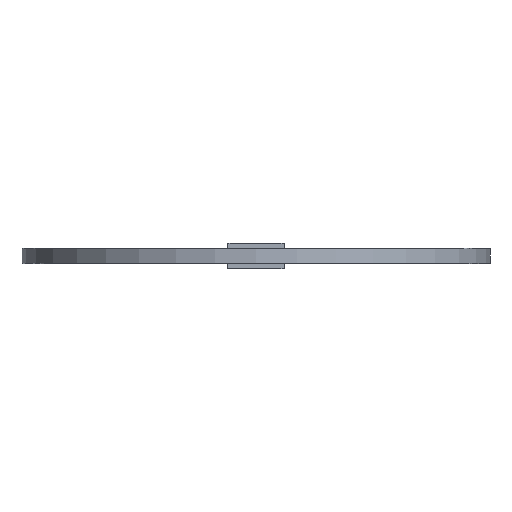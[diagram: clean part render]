
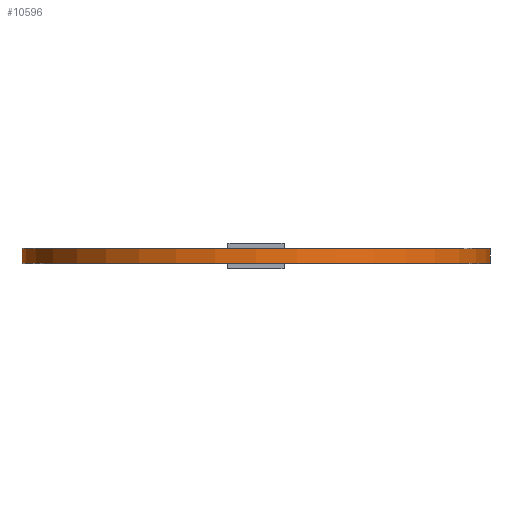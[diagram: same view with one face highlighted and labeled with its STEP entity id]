
A CAD part, front view. The second image highlights one B-rep face of the part: STEP entity #10596.
In plain terms, the highlighted cylindrical face has radius 150 mm (diameter 300 mm), a partial arc.
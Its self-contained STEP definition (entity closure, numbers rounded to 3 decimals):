
#2 = CARTESIAN_POINT ( 'NONE',  ( 0., 9.6, -150. ) ) ;
#199 = DIRECTION ( 'NONE',  ( 0., 0., -1. ) ) ;
#377 = CARTESIAN_POINT ( 'NONE',  ( 0., 0.4, -150. ) ) ;
#1351 = VECTOR ( 'NONE', #4229, 1000. ) ;
#1651 = ORIENTED_EDGE ( 'NONE', *, *, #2908, .T. ) ;
#1821 = ORIENTED_EDGE ( 'NONE', *, *, #8006, .F. ) ;
#2908 = EDGE_CURVE ( 'NONE', #13306, #6566, #3699, .T. ) ;
#3416 = FACE_OUTER_BOUND ( 'NONE', #5582, .T. ) ;
#3684 = ORIENTED_EDGE ( 'NONE', *, *, #8570, .T. ) ;
#3699 = LINE ( 'NONE', #6756, #12735 ) ;
#3711 = DIRECTION ( 'NONE',  ( 0., 0., -1. ) ) ;
#3927 = CIRCLE ( 'NONE', #11383, 150. ) ;
#3957 = VERTEX_POINT ( 'NONE', #13190 ) ;
#4229 = DIRECTION ( 'NONE',  ( 0., -1., 0. ) ) ;
#4431 = LINE ( 'NONE', #9764, #1351 ) ;
#4604 = EDGE_CURVE ( 'NONE', #5513, #6566, #3927, .T. ) ;
#4736 = DIRECTION ( 'NONE',  ( 0., -1., 0. ) ) ;
#4871 = DIRECTION ( 'NONE',  ( 0., -1., 0. ) ) ;
#5513 = VERTEX_POINT ( 'NONE', #7809 ) ;
#5582 = EDGE_LOOP ( 'NONE', ( #1821, #3684, #1651, #8281 ) ) ;
#5617 = DIRECTION ( 'NONE',  ( 0., -1., 0. ) ) ;
#6566 = VERTEX_POINT ( 'NONE', #377 ) ;
#6756 = CARTESIAN_POINT ( 'NONE',  ( 0., 0., -150. ) ) ;
#7179 = AXIS2_PLACEMENT_3D ( 'NONE', #10611, #13945, #10660 ) ;
#7809 = CARTESIAN_POINT ( 'NONE',  ( 0., 0.4, 150. ) ) ;
#8006 = EDGE_CURVE ( 'NONE', #3957, #5513, #4431, .T. ) ;
#8281 = ORIENTED_EDGE ( 'NONE', *, *, #4604, .F. ) ;
#8492 = AXIS2_PLACEMENT_3D ( 'NONE', #8962, #4736, #199 ) ;
#8570 = EDGE_CURVE ( 'NONE', #3957, #13306, #12433, .T. ) ;
#8962 = CARTESIAN_POINT ( 'NONE',  ( 0., 0., 0. ) ) ;
#9764 = CARTESIAN_POINT ( 'NONE',  ( 0., 0., 150. ) ) ;
#10596 = ADVANCED_FACE ( 'NONE', ( #3416 ), #13619, .T. ) ;
#10611 = CARTESIAN_POINT ( 'NONE',  ( 0., 9.6, 0. ) ) ;
#10660 = DIRECTION ( 'NONE',  ( 0., 0., -1. ) ) ;
#11305 = CARTESIAN_POINT ( 'NONE',  ( 0., 0.4, 0. ) ) ;
#11383 = AXIS2_PLACEMENT_3D ( 'NONE', #11305, #4871, #3711 ) ;
#12433 = CIRCLE ( 'NONE', #7179, 150. ) ;
#12735 = VECTOR ( 'NONE', #5617, 1000. ) ;
#13190 = CARTESIAN_POINT ( 'NONE',  ( 0., 9.6, 150. ) ) ;
#13306 = VERTEX_POINT ( 'NONE', #2 ) ;
#13619 = CYLINDRICAL_SURFACE ( 'NONE', #8492, 150. ) ;
#13945 = DIRECTION ( 'NONE',  ( 0., -1., 0. ) ) ;
